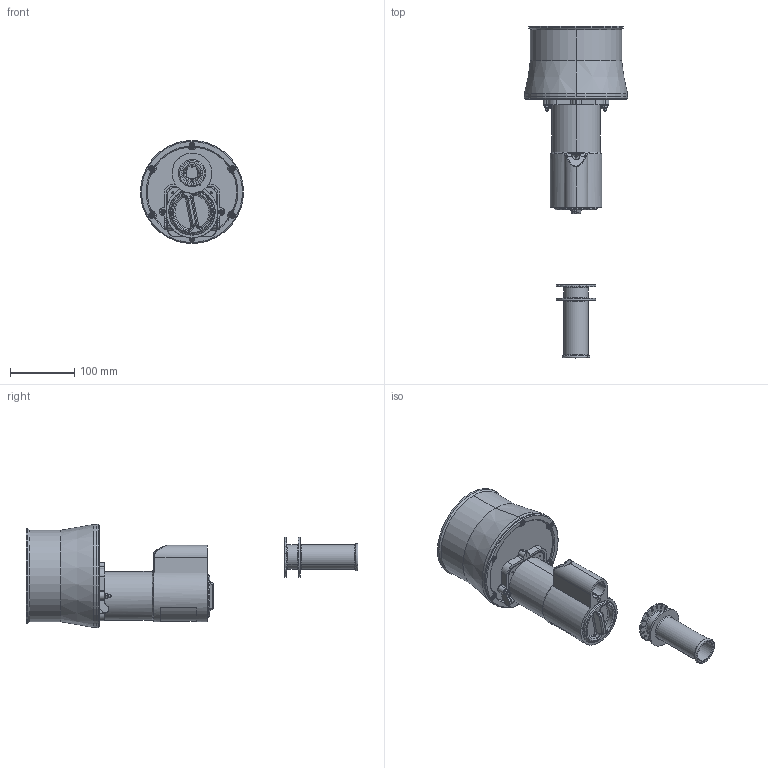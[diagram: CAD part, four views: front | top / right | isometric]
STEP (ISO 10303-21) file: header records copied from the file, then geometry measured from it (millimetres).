
FILE_DESCRIPTION (( 'STEP AP214' ), '1' );
FILE_NAME ('Òåñòåð äûìîâûõ äàò÷èêîâ.STEP', '2026-10-15T09:48:33', ( '' ), ( '' ), 'SwSTEP 2.0', 'SolidWorks 2022', '' );
FILE_SCHEMA (( 'AUTOMOTIVE_DESIGN' ));
Length unit declared in the file: millimetre
Products named in the file (11): АДГЕ.742111.040 Скоба; АДГЕ.731147.263 Втулка; АДГЕ.731147.262 Тубус; Гайка DIN 985 M4; Шуруп универсальный головка потайная 3,5x20; АДГЕ.731296.126 Рычаг; АДГЕ.755476.028 Стекло; АДГЕ.731296.125 Чаша; АДГЕ.731147.264 Ручка; АДГЕ.763541.043 Упор; Тестер дымовых датчиков
Assembly tree (21 placements, depth 2):
  Тестер дымовых датчиков
    АДГЕ.731296.125 Чаша
    АДГЕ.731147.262 Тубус
    АДГЕ.755476.028 Стекло
    АДГЕ.731296.126 Рычаг
    Гайка DIN 985 M4  x2
    АДГЕ.731147.264 Ручка
    АДГЕ.763541.043 Упор
    Шуруп универсальный головка потайная 3,5x20  x10
    АДГЕ.742111.040 Скоба  x2
    АДГЕ.731147.263 Втулка
Bounding box: 160 x 515.35 x 160 mm (x, y, z)
Volume: 655853.6 mm3; surface area: 349434.9 mm2
Topology: 21 solids, 21 shells, 1158 faces, 3012 edges, 1905 vertices
Faces by surface type: cylinder 488, plane 385, cone 187, torus 69, bspline 29
Entity records: 36902 total; most frequent: CARTESIAN_POINT 12519, DIRECTION 4607, ORIENTED_EDGE 4396, EDGE_CURVE 2198, AXIS2_PLACEMENT_3D 1854, VERTEX_POINT 1400, CIRCLE 1021, EDGE_LOOP 940
